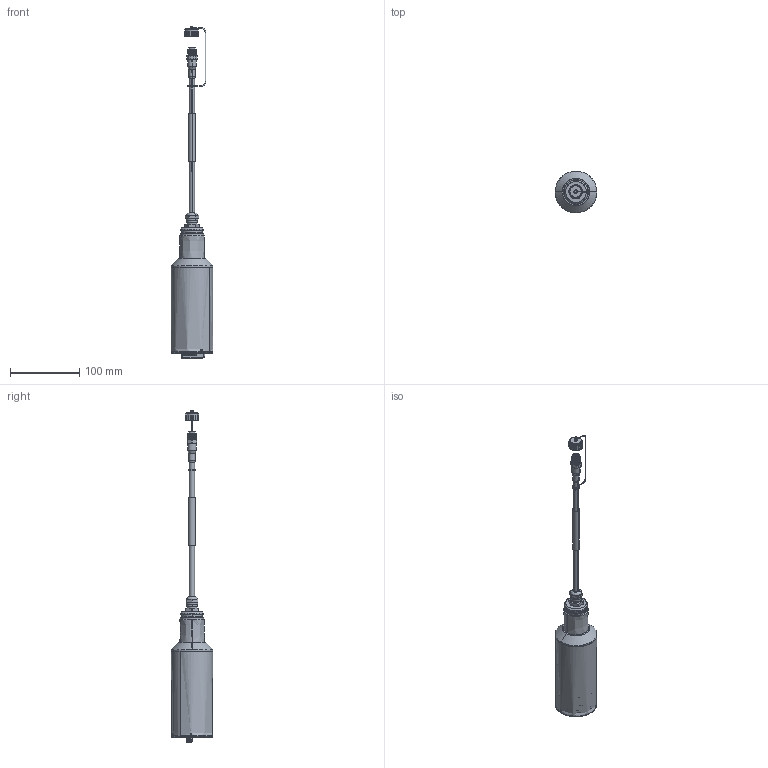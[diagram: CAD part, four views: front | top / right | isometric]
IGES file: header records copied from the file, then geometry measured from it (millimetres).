
Start section: SolidWorks IGES file using analytic representation for surfaces
Global section: file name: G:\EGK\USER\Sabine Krause\Public Group\meine_PDF\LXV423_TD_00000__001.IGS; native system: SolidWorks 2012; preprocessor: SolidWorks 2012; author: skrause; date: 120911.140646; units: millimetre
Bounding box: 60.3 x 60.3 x 480.84 mm (x, y, z)
Surface area: 96665.7 mm2 (no closed solid volume)
Topology: 0 solids, 0 shells, 755 faces, 11560 edges, 11546 vertices
Faces by surface type: bspline 437, revolution 318
